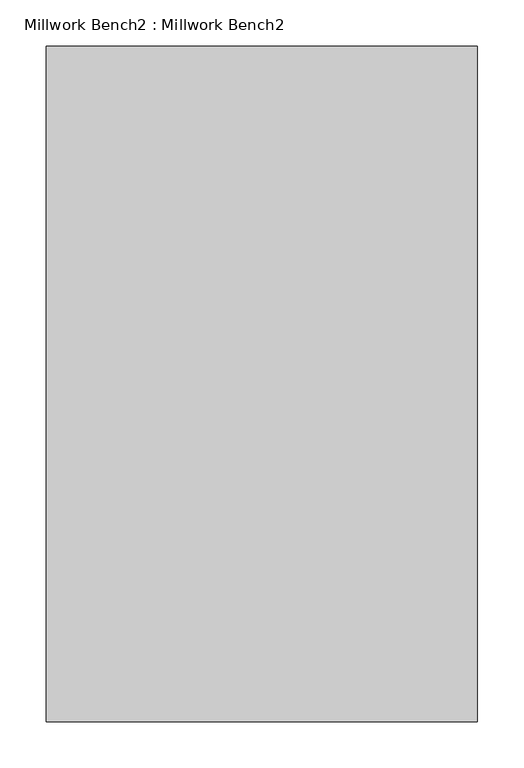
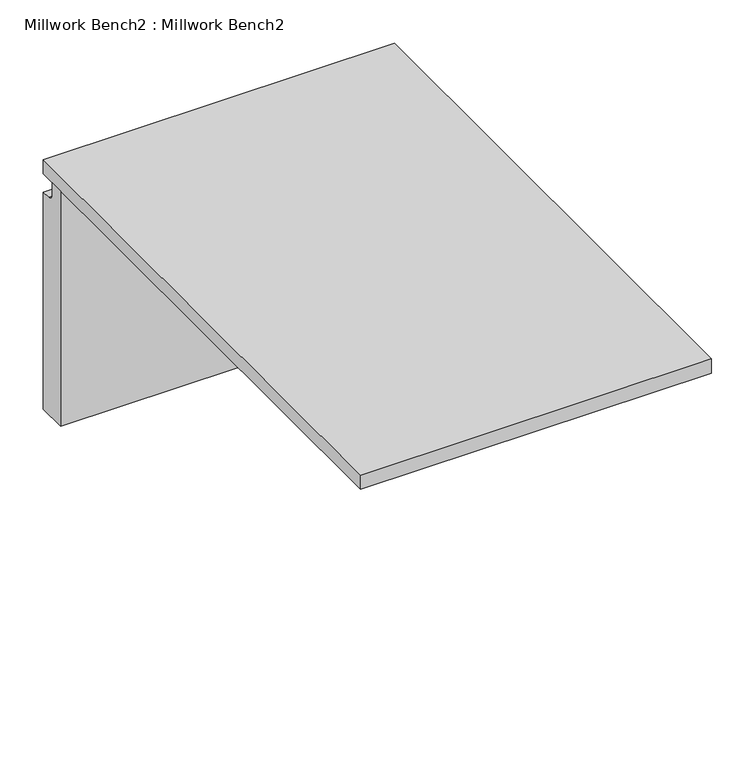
"""IFC4 building model written with IfcOpenShell, lengths in millimetres: plate geometry, Millwork Bench2 : Millwork Bench2."""

from ifc_helpers import new_model, si_unit, point, frame, frame_2d, origin, place, context, project, spatial, polyline, circle_curve, trimmed, segment, composite_curve, outline, extrude, source, transform, mapped, element, save


def millwork_bench2_millwork_bench2_839899ad(model_context):
    return source(origin(), model_context, "Body", "SweptSolid", [
        extrude(outline(composite_curve([segment(polyline([(730.0, 304.4307002), (730.0, 0.0), (690.0, 0.0), (690.0, 330.0), (710.0, 330.0), (710.0, 312.4307002)]), True, "CONTINUOUS"), segment(trimmed(circle_curve(frame_2d((718.0, 312.4307002)), 8.0), [point((710.0, 312.4307002))], [point((718.0, 304.4307002))], True, "CARTESIAN"), True, "CONTINUOUS"), segment(polyline([(718.0, 304.4307002), (730.0, 304.4307002)]), True, "CONTINUOUS")], self_intersect=False)), frame((-232.992966, 0.0, 0.0), z_axis=(1.0, 0.0, 0.0), x_axis=(0.0, 1.0, 0.0)), (0.0, 0.0, 1.0), 465.985932),
        extrude(outline(polyline([(232.992966, 730.0), (232.992966, 0.0), (-232.992966, 0.0), (-232.992966, 730.0), (232.992966, 730.0)])), frame((0.0, 0.0, 330.0), z_axis=(0.0, 0.0, 1.0), x_axis=(1.0, 0.0, 0.0)), (0.0, 0.0, 1.0), 20.0),
    ])


if __name__ == "__main__":
    model = new_model("IFC4")
    model_context = context("Model", 3, world=origin())
    ifc_project = project(units=[si_unit("LENGTHUNIT", "METRE", prefix="MILLI")], contexts=[model_context])
    site = spatial("IfcSite", under=ifc_project)
    building = spatial("IfcBuilding", under=site)
    placement = place(None, origin())
    millwork_bench2_millwork_bench2_shape = millwork_bench2_millwork_bench2_839899ad(model_context)
    element("IfcPlate", 1, ObjectType="Millwork Bench2 : Millwork Bench2", at=placement, inside=building, context=model_context, shape_type="MappedRepresentation", body=[
        mapped(millwork_bench2_millwork_bench2_shape, transform((0.0, 0.0, 0.0), x_axis=(1.0, 0.0, 0.0), y_axis=(0.0, 1.0, 0.0), z_axis=(0.0, 0.0, 1.0))),
    ])
    save(model, "model.ifc")
